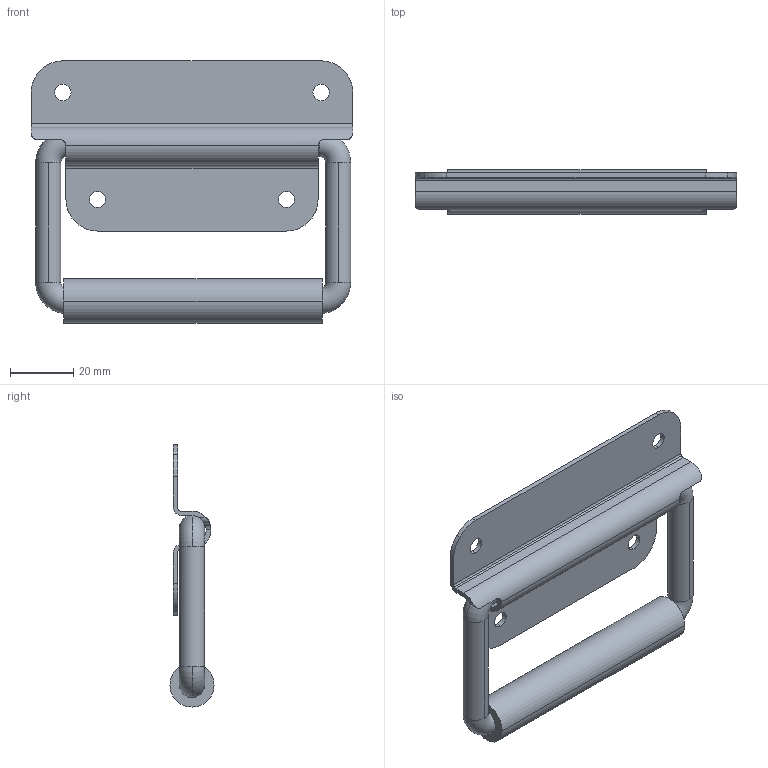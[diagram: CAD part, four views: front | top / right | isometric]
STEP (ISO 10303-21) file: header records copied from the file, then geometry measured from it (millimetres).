
FILE_DESCRIPTION((''),'2;1');
FILE_NAME('100.H1030R.stp','2023-10-09T15:30:42',(''),(''),'Mechanical Desktop 2006','Mechanical Desktop 2006',', , ');
FILE_SCHEMA(('CONFIG_CONTROL_DESIGN'));
Length unit declared in the file: millimetre
Products named in the file (12): H1030R_; ASSEM1; BAU1; OBERTEIL KISTENG 1056(1); BAU2; BUGEL 1056(1); BAU3; TEIL1(1); H1030; OBERTEIL KISTENG 1056; BUGEL 1056; TEIL1
Assembly tree (7 placements, depth 4):
  H1030R_
    ASSEM1
      BAU1
        OBERTEIL KISTENG 1056(1)
      BAU2
        BUGEL 1056(1)
      BAU3
        TEIL1(1)
  H1030
  OBERTEIL KISTENG 1056
  BUGEL 1056
  TEIL1
Bounding box: 102 x 14 x 83.22 mm (x, y, z)
Volume: 29428.1 mm3; surface area: 24611 mm2
Topology: 3 solids, 3 shells, 76 faces, 206 edges, 136 vertices
Faces by surface type: cylinder 48, plane 20, torus 8
Entity records: 2876 total; most frequent: CARTESIAN_POINT 554, DIRECTION 470, ORIENTED_EDGE 412, EDGE_CURVE 206, AXIS2_PLACEMENT_3D 192, VERTEX_POINT 136, CIRCLE 108, VECTOR 86
